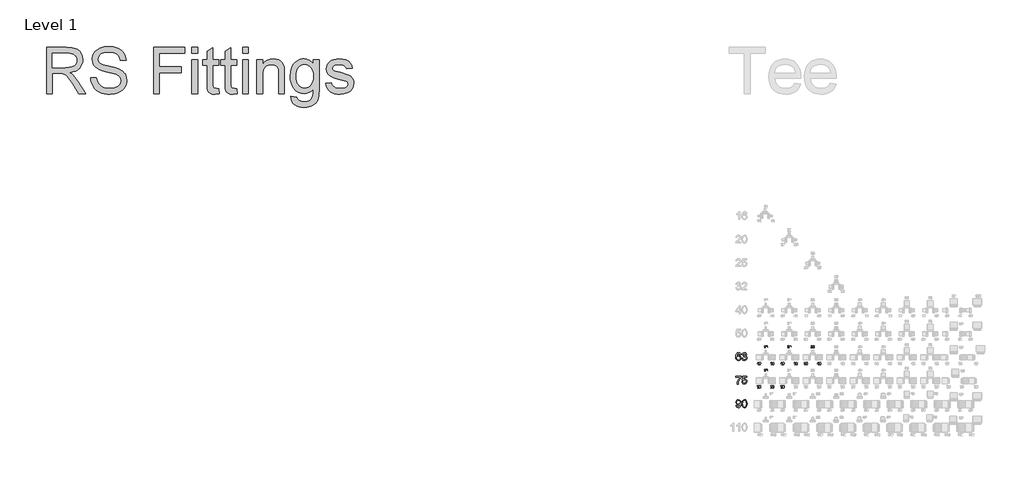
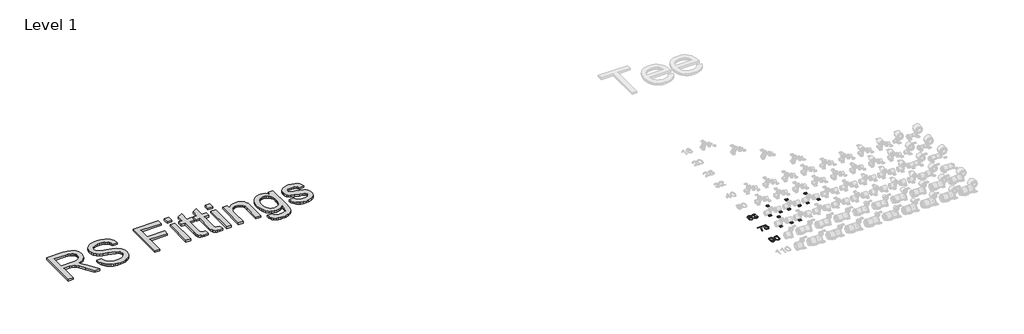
# One storey, part 19 of 58: 17 proxies.
"""IFC4 building model written with IfcOpenShell, lengths in millimetres."""

from ifc_helpers import new_model, si_unit, frame, origin, place, context, project, spatial, polyline, outline, extrude, element, save

model = new_model("IFC4")

# Units and contexts
model_context = context("Model", 3, world=origin())
ifc_project = project(units=[si_unit("LENGTHUNIT", "METRE", prefix="MILLI")], contexts=[model_context])

# Site, building, storey
site = spatial("IfcSite", under=ifc_project)
building = spatial("IfcBuilding", under=site)
storey = spatial("IfcBuildingStorey", under=building, Name="Level 1", Elevation=27.3876384)

# Proxies
placement = place(None, origin())
element("IfcBuildingElementProxy", 1, Name="100mm Arial", ObjectType="100mm Arial", at=placement, inside=storey, context=model_context, shape_type="SweptSolid", body=[
    extrude(outline(polyline([(12948.836301, 16879.9686507), (12936.2792622, 16878.3990209), (12931.5213218, 16888.871395), (12918.9397575, 16894.0953193), (12907.6089921, 16891.0541615), (12899.0373416, 16879.6375569), (12895.4688862, 16857.2580689), (12906.5421343, 16867.2767219), (12920.2641327, 16870.5508717), (12931.8646783, 16868.3129229), (12941.6012884, 16861.5990764), (12948.2047702, 16851.3413001), (12950.4059308, 16838.4715617), (12946.261127, 16821.1443197), (12934.8567852, 16808.8815865), (12918.4001973, 16804.6264181), (12904.153967, 16807.4468468), (12892.8078731, 16815.9081326), (12885.3858539, 16830.8441416), (12882.9118475, 16853.0887396), (12885.6586997, 16878.0985839), (12893.8992564, 16895.1989653), (12905.1503141, 16903.7890099), (12919.7245724, 16906.6523581), (12930.7426382, 16904.8803932), (12939.5656747, 16899.5644983), (12945.7460922, 16891.1216066), (12948.836301, 16879.9686507)]), holes=[polyline([(12895.4688862, 16838.6677654), (12898.375154, 16827.7907211), (12906.1006759, 16819.8935209), (12917.4191786, 16817.1834569), (12925.7057205, 16818.5875398), (12932.2202975, 16822.7997887), (12936.4417434, 16829.4216646), (12937.8488921, 16838.0546288), (12936.4601375, 16846.3411707), (12932.2938739, 16852.659544), (12925.6689323, 16856.6602607), (12916.9041438, 16857.9938329), (12901.7106174, 16852.659544), (12897.029319, 16846.4944549), (12895.4688862, 16838.6677654)])]), frame((0.0, 0.0, 27.3876384), z_axis=(0.0, 0.0, 1.0), x_axis=(1.0, 0.0, 0.0)), (0.0, 0.0, 1.0), 2.0),
    extrude(outline(polyline([(12961.3933398, 16832.8797554), (12973.9503785, 16834.4493852), (12980.8788228, 16821.2301588), (12993.8405317, 16817.1834569), (13002.4489704, 16818.5752771), (13009.0953718, 16822.7507378), (13014.7607545, 16836.5340498), (13009.1444227, 16849.5202843), (12994.8706013, 16854.6583695), (12986.0659589, 16853.2849434), (12987.4639105, 16865.8419821), (12989.4749987, 16865.6948293), (13003.7242947, 16869.3000729), (13008.4699724, 16873.8740723), (13010.051865, 16880.3855837), (13005.4656028, 16890.2080329), (12993.644328, 16894.0953193), (12981.6759004, 16890.1712447), (12975.5200084, 16878.3990209), (12962.9629696, 16879.9686507), (12966.6601837, 16891.2442339), (12973.23914, 16899.6626002), (12982.2399862, 16904.9049186), (12993.2028696, 16906.6523581), (13008.3473451, 16903.2065301), (13018.9423465, 16893.788751), (13022.6089038, 16881.1213477), (13019.1262875, 16869.5453275), (13008.8255917, 16861.2311944), (13022.5108019, 16852.6472812), (13027.3177933, 16836.3133206), (13024.9142976, 16824.0751129), (13017.7038105, 16813.8479935), (13006.8206348, 16806.931812), (12993.3990733, 16804.6264181), (12981.2589675, 16806.5945868), (12971.3752046, 16812.4990928), (12964.5019426, 16821.5305958), (12961.3933398, 16832.8797554)])), frame((0.0, 0.0, 27.3876384), z_axis=(0.0, 0.0, 1.0), x_axis=(1.0, 0.0, 0.0)), (0.0, 0.0, 1.0), 2.0),
])
element("IfcBuildingElementProxy", 2, Name="100mm Arial", ObjectType="100mm Arial", at=placement, inside=storey, context=model_context, shape_type="SweptSolid", body=[
    extrude(outline(polyline([(12884.4814773, 16592.5256895), (12884.4814773, 16605.0827283), (12950.4059308, 16605.0827283), (12950.4059308, 16594.9291852), (12931.7052628, 16567.914384), (12917.3946531, 16533.492892), (12912.7348145, 16506.196048), (12900.1777758, 16506.196048), (12905.1687082, 16534.5229616), (12918.8661811, 16566.5409579), (12937.8488921, 16592.5256895), (12884.4814773, 16592.5256895)])), frame((0.0, 0.0, 27.3876384), z_axis=(0.0, 0.0, 1.0), x_axis=(1.0, 0.0, 0.0)), (0.0, 0.0, 1.0), 2.0),
    extrude(outline(polyline([(12961.3933398, 16532.8797554), (12973.9503785, 16534.4493852), (12980.2779488, 16521.5122017), (12993.3990733, 16517.1834569), (13002.3999195, 16518.6887074), (13009.1444227, 16523.2044589), (13013.3566716, 16530.2095452), (13014.7607545, 16539.1828002), (13009.500042, 16554.0942837), (13002.8934945, 16558.196168), (12993.5952771, 16559.5634627), (12982.57108, 16557.3806962), (12975.5200084, 16551.7153135), (12962.9629696, 16553.2849434), (12973.9503785, 16605.0827283), (13022.6089038, 16605.0827283), (13022.6089038, 16592.5256895), (12984.1039216, 16592.5256895), (12978.7328445, 16564.8609635), (12987.7030338, 16570.305617), (12997.1024188, 16572.1205015), (13008.8347887, 16569.87029), (13018.5744645, 16563.1196554), (13025.1319611, 16552.8312222), (13027.3177933, 16539.9676151), (13025.3496246, 16527.4105764), (13019.4451186, 16516.6684221), (13008.1388786, 16507.6369191), (12993.3500224, 16504.6264181), (12981.0167785, 16506.5608643), (12971.1912636, 16512.3642028), (12964.4559574, 16521.3619832), (12961.3933398, 16532.8797554)])), frame((0.0, 0.0, 27.3876384), z_axis=(0.0, 0.0, 1.0), x_axis=(1.0, 0.0, 0.0)), (0.0, 0.0, 1.0), 2.0),
])
element("IfcBuildingElementProxy", 3, Name="100mm Arial", ObjectType="100mm Arial", at=placement, inside=storey, context=model_context, shape_type="SweptSolid", body=[
    extrude(outline(polyline([(12886.0511071, 16231.3101255), (12898.6081459, 16232.8797554), (12904.2490032, 16220.899065), (12914.9421065, 16217.1834569), (12925.1079123, 16219.5746899), (12931.9995683, 16225.9635738), (12936.107584, 16236.8774064), (12937.9224685, 16251.4455334), (12937.8488921, 16253.89808), (12927.8057136, 16244.3821991), (12914.0346642, 16240.7279046), (12902.5843371, 16242.959722), (12893.0531278, 16249.6551743), (12886.6243899, 16259.9987898), (12884.4814773, 16273.1750966), (12886.7286232, 16286.7867304), (12893.4700607, 16297.4553082), (12903.5960126, 16304.3530956), (12915.9967016, 16306.6523581), (12933.8880293, 16301.4039083), (12946.1998134, 16286.4433738), (12950.4059308, 16258.3371894), (12946.2120761, 16227.839772), (12940.9973488, 16217.8487102), (12933.7408765, 16210.561581), (12924.7553587, 16206.1102088), (12914.3534953, 16204.6264181), (12903.6174724, 16206.3769233), (12895.0519533, 16211.6284388), (12889.0616081, 16220.0498708), (12886.0511071, 16231.3101255)]), holes=[polyline([(12937.8488921, 16273.4694022), (12936.4938601, 16281.979739), (12932.428764, 16288.5280385), (12926.1195878, 16292.7034991), (12918.0323153, 16294.0953193), (12909.6446058, 16292.5962002), (12902.924628, 16288.0988428), (12898.5100441, 16281.2163838), (12897.0385161, 16272.5619599), (12898.4303363, 16264.8027155), (12902.6057969, 16258.6437577), (12909.1602278, 16254.624647), (12917.6889587, 16253.2849434), (12932.1712466, 16258.6437577), (12936.4294807, 16265.029576), (12937.8488921, 16273.4694022)])]), frame((0.0, 0.0, 27.3876384), z_axis=(0.0, 0.0, 1.0), x_axis=(1.0, 0.0, 0.0)), (0.0, 0.0, 1.0), 2.0),
    extrude(outline(polyline([(12961.3933398, 16255.6148627), (12965.0844224, 16284.5181247), (12976.0473059, 16301.1831791), (12994.3555665, 16306.6523581), (13009.0217954, 16303.4149966), (13019.150813, 16294.0830566), (13025.0369249, 16279.220624), (13027.3177933, 16255.6148627), (13023.6634988, 16226.8342279), (13012.7374036, 16210.1323853), (13004.5060439, 16206.0029099), (12994.3555665, 16204.6264181), (12981.3080184, 16207.0176511), (12971.39973, 16214.19135), (12963.8949373, 16231.1813668), (12961.3933398, 16255.6148627)]), holes=[polyline([(12973.9503785, 16255.6393881), (12975.4219065, 16235.8871907), (12979.8364905, 16224.4552577), (12986.4093154, 16219.0014071), (12994.3555665, 16217.1834569), (13002.3018176, 16219.0075385), (13008.8746426, 16224.4797831), (13013.2892265, 16235.9178475), (13014.7607545, 16255.6393881), (13013.3382775, 16274.9470615), (13009.0708463, 16286.4678993), (13002.5102841, 16292.1884643), (12994.2084137, 16294.0953193), (12986.3480018, 16292.4153249), (12980.0326942, 16287.3753416), (12975.4709574, 16275.1371339), (12973.9503785, 16255.6393881)])]), frame((0.0, 0.0, 27.3876384), z_axis=(0.0, 0.0, 1.0), x_axis=(1.0, 0.0, 0.0)), (0.0, 0.0, 1.0), 2.0),
])
element("IfcBuildingElementProxy", 4, Name="30mm Arial", ObjectType="30mm Arial", at=placement, inside=storey, context=model_context, shape_type="SweptSolid", body=[
    extrude(outline(polyline([(13177.8418771, 16774.7106348), (13174.0747655, 16774.2397458), (13172.6473834, 16777.381458), (13168.8729141, 16778.9486353), (13165.4736845, 16778.036288), (13162.9021893, 16774.6113066), (13161.8316527, 16767.8974602), (13165.1536271, 16770.9030561), (13169.2702266, 16771.885301), (13175.6713734, 16769.1997625), (13178.3127661, 16762.261508), (13177.0693249, 16757.0633355), (13173.6480224, 16753.3845155), (13168.711046, 16752.107965), (13161.0333488, 16755.4924793), (13158.0645411, 16766.6466614), (13161.3607637, 16779.2797291), (13169.1083586, 16782.715747), (13175.0606892, 16780.589389), (13177.8418771, 16774.7106348)]), holes=[polyline([(13161.8316527, 16762.3203692), (13162.703533, 16759.0572559), (13165.0211896, 16756.6880958), (13168.4167404, 16755.8750766), (13172.8570761, 16757.5599761), (13174.5456545, 16762.1364282), (13172.879149, 16766.5179027), (13168.26223, 16768.1181894), (13163.7041721, 16766.5179027), (13161.8316527, 16762.3203692)])]), frame((0.0, 0.0, 27.3876384), z_axis=(0.0, 0.0, 1.0), x_axis=(1.0, 0.0, 0.0)), (0.0, 0.0, 1.0), 2.0),
    extrude(outline(polyline([(13181.6089888, 16760.5839661), (13185.3761004, 16761.0548551), (13187.4546337, 16757.0890872), (13191.3431464, 16755.8750766), (13195.9195984, 16757.5452609), (13197.6192132, 16761.6802545), (13195.9343137, 16765.5761248), (13191.6521672, 16767.1175504), (13189.0107745, 16766.7055225), (13189.43016, 16770.4726342), (13194.3082752, 16771.5100614), (13196.2065463, 16774.8357146), (13194.8306677, 16777.7824494), (13191.2842852, 16778.9486353), (13187.693757, 16777.771413), (13185.8469893, 16774.2397458), (13182.0798777, 16774.7106348), (13185.1627288, 16780.6188196), (13191.1518477, 16782.715747), (13195.6951904, 16781.6819986), (13198.8736908, 16778.8566648), (13199.973658, 16775.0564438), (13198.9288731, 16771.5836378), (13195.8386643, 16769.0893979), (13199.9442274, 16766.5142239), (13201.3863248, 16761.6140357), (13198.50213, 16754.8744376), (13191.2107088, 16752.107965), (13184.6035482, 16754.4697674), (13181.6089888, 16760.5839661)])), frame((0.0, 0.0, 27.3876384), z_axis=(0.0, 0.0, 1.0), x_axis=(1.0, 0.0, 0.0)), (0.0, 0.0, 1.0), 2.0),
])
element("IfcBuildingElementProxy", 5, Name="30mm Arial", ObjectType="30mm Arial", at=placement, inside=storey, context=model_context, shape_type="SweptSolid", body=[
    extrude(outline(polyline([(13346.5918771, 16774.7106348), (13342.8247655, 16774.2397458), (13341.3973834, 16777.381458), (13337.6229141, 16778.9486353), (13334.2236845, 16778.036288), (13331.6521893, 16774.6113066), (13330.5816527, 16767.8974602), (13333.9036271, 16770.9030561), (13338.0202266, 16771.885301), (13344.4213734, 16769.1997625), (13347.0627661, 16762.261508), (13345.8193249, 16757.0633355), (13342.3980224, 16753.3845155), (13337.461046, 16752.107965), (13329.7833488, 16755.4924793), (13326.8145411, 16766.6466614), (13330.1107637, 16779.2797291), (13337.8583586, 16782.715747), (13343.8106892, 16780.589389), (13346.5918771, 16774.7106348)]), holes=[polyline([(13330.5816527, 16762.3203692), (13331.453533, 16759.0572559), (13333.7711896, 16756.6880958), (13337.1667404, 16755.8750766), (13341.6070761, 16757.5599761), (13343.2956545, 16762.1364282), (13341.629149, 16766.5179027), (13337.01223, 16768.1181894), (13332.4541721, 16766.5179027), (13330.5816527, 16762.3203692)])]), frame((0.0, 0.0, 27.3876384), z_axis=(0.0, 0.0, 1.0), x_axis=(1.0, 0.0, 0.0)), (0.0, 0.0, 1.0), 2.0),
    extrude(outline(polyline([(13350.3589888, 16760.5839661), (13354.1261004, 16761.0548551), (13356.2046337, 16757.0890872), (13360.0931464, 16755.8750766), (13364.6695984, 16757.5452609), (13366.3692132, 16761.6802545), (13364.6843137, 16765.5761248), (13360.4021672, 16767.1175504), (13357.7607745, 16766.7055225), (13358.18016, 16770.4726342), (13363.0582752, 16771.5100614), (13364.9565463, 16774.8357146), (13363.5806677, 16777.7824494), (13360.0342852, 16778.9486353), (13356.443757, 16777.771413), (13354.5969893, 16774.2397458), (13350.8298777, 16774.7106348), (13353.9127288, 16780.6188196), (13359.9018477, 16782.715747), (13364.4451904, 16781.6819986), (13367.6236908, 16778.8566648), (13368.723658, 16775.0564438), (13367.6788731, 16771.5836378), (13364.5886643, 16769.0893979), (13368.6942274, 16766.5142239), (13370.1363248, 16761.6140357), (13367.25213, 16754.8744376), (13359.9607088, 16752.107965), (13353.3535482, 16754.4697674), (13350.3589888, 16760.5839661)])), frame((0.0, 0.0, 27.3876384), z_axis=(0.0, 0.0, 1.0), x_axis=(1.0, 0.0, 0.0)), (0.0, 0.0, 1.0), 2.0),
])
element("IfcBuildingElementProxy", 6, Name="30mm Arial", ObjectType="30mm Arial", at=placement, inside=storey, context=model_context, shape_type="SweptSolid", body=[
    extrude(outline(polyline([(13259.5902834, 16966.3974945), (13255.8231718, 16966.3974945), (13255.8231718, 16989.8830811), (13252.2547165, 16987.3410165), (13248.2889486, 16985.4390666), (13248.2889486, 16989.0001643), (13253.8108573, 16992.5244738), (13257.1622623, 16996.5343875), (13259.5902834, 16996.5343875), (13259.5902834, 16966.3974945)])), frame((0.0, 0.0, 27.3876384), z_axis=(0.0, 0.0, 1.0), x_axis=(1.0, 0.0, 0.0)), (0.0, 0.0, 1.0), 2.0),
    extrude(outline(polyline([(13287.8436207, 16988.5292753), (13284.076509, 16988.0583864), (13282.6491269, 16991.2000986), (13278.8746576, 16992.7672759), (13275.475428, 16991.8549286), (13272.9039328, 16988.4299472), (13271.8333962, 16981.7161008), (13275.1553707, 16984.7216967), (13279.2719702, 16985.7039416), (13285.6731169, 16983.018403), (13288.3145096, 16976.0801486), (13287.0710685, 16970.881976), (13283.6497659, 16967.2031561), (13278.7127896, 16965.9266055), (13271.0350923, 16969.3111199), (13268.0662846, 16980.465302), (13271.3625073, 16993.0983697), (13279.1101021, 16996.5343875), (13285.0624328, 16994.4080296), (13287.8436207, 16988.5292753)]), holes=[polyline([(13271.8333962, 16976.1390097), (13272.7052766, 16972.8758964), (13275.0229331, 16970.5067364), (13278.418484, 16969.6937172), (13282.8588196, 16971.3786167), (13284.547398, 16975.9550687), (13282.8808926, 16980.3365433), (13278.2639735, 16981.93683), (13273.7059156, 16980.3365433), (13271.8333962, 16976.1390097)])]), frame((0.0, 0.0, 27.3876384), z_axis=(0.0, 0.0, 1.0), x_axis=(1.0, 0.0, 0.0)), (0.0, 0.0, 1.0), 2.0),
])
element("IfcBuildingElementProxy", 7, Name="30mm Arial", ObjectType="30mm Arial", at=placement, inside=storey, context=model_context, shape_type="SweptSolid", body=[
    extrude(outline(polyline([(13477.8418771, 16774.7106348), (13474.0747655, 16774.2397458), (13472.6473834, 16777.381458), (13468.8729141, 16778.9486353), (13465.4736845, 16778.036288), (13462.9021893, 16774.6113066), (13461.8316527, 16767.8974602), (13465.1536271, 16770.9030561), (13469.2702266, 16771.885301), (13475.6713734, 16769.1997625), (13478.3127661, 16762.261508), (13477.0693249, 16757.0633355), (13473.6480224, 16753.3845155), (13468.711046, 16752.107965), (13461.0333488, 16755.4924793), (13458.0645411, 16766.6466614), (13461.3607637, 16779.2797291), (13469.1083586, 16782.715747), (13475.0606892, 16780.589389), (13477.8418771, 16774.7106348)]), holes=[polyline([(13461.8316527, 16762.3203692), (13462.703533, 16759.0572559), (13465.0211896, 16756.6880958), (13468.4167404, 16755.8750766), (13472.8570761, 16757.5599761), (13474.5456545, 16762.1364282), (13472.879149, 16766.5179027), (13468.26223, 16768.1181894), (13463.7041721, 16766.5179027), (13461.8316527, 16762.3203692)])]), frame((0.0, 0.0, 27.3876384), z_axis=(0.0, 0.0, 1.0), x_axis=(1.0, 0.0, 0.0)), (0.0, 0.0, 1.0), 2.0),
    extrude(outline(polyline([(13481.6089888, 16760.5839661), (13485.3761004, 16761.0548551), (13487.4546337, 16757.0890872), (13491.3431464, 16755.8750766), (13495.9195984, 16757.5452609), (13497.6192132, 16761.6802545), (13495.9343137, 16765.5761248), (13491.6521672, 16767.1175504), (13489.0107745, 16766.7055225), (13489.43016, 16770.4726342), (13494.3082752, 16771.5100614), (13496.2065463, 16774.8357146), (13494.8306677, 16777.7824494), (13491.2842852, 16778.9486353), (13487.693757, 16777.771413), (13485.8469893, 16774.2397458), (13482.0798777, 16774.7106348), (13485.1627288, 16780.6188196), (13491.1518477, 16782.715747), (13495.6951904, 16781.6819986), (13498.8736908, 16778.8566648), (13499.973658, 16775.0564438), (13498.9288731, 16771.5836378), (13495.8386643, 16769.0893979), (13499.9442274, 16766.5142239), (13501.3863248, 16761.6140357), (13498.50213, 16754.8744376), (13491.2107088, 16752.107965), (13484.6035482, 16754.4697674), (13481.6089888, 16760.5839661)])), frame((0.0, 0.0, 27.3876384), z_axis=(0.0, 0.0, 1.0), x_axis=(1.0, 0.0, 0.0)), (0.0, 0.0, 1.0), 2.0),
])
element("IfcBuildingElementProxy", 8, Name="30mm Arial", ObjectType="30mm Arial", at=placement, inside=storey, context=model_context, shape_type="SweptSolid", body=[
    extrude(outline(polyline([(13646.5918771, 16774.7106348), (13642.8247655, 16774.2397458), (13641.3973834, 16777.381458), (13637.6229141, 16778.9486353), (13634.2236845, 16778.036288), (13631.6521893, 16774.6113066), (13630.5816527, 16767.8974602), (13633.9036271, 16770.9030561), (13638.0202266, 16771.885301), (13644.4213734, 16769.1997625), (13647.0627661, 16762.261508), (13645.8193249, 16757.0633355), (13642.3980224, 16753.3845155), (13637.461046, 16752.107965), (13629.7833488, 16755.4924793), (13626.8145411, 16766.6466614), (13630.1107637, 16779.2797291), (13637.8583586, 16782.715747), (13643.8106892, 16780.589389), (13646.5918771, 16774.7106348)]), holes=[polyline([(13630.5816527, 16762.3203692), (13631.453533, 16759.0572559), (13633.7711896, 16756.6880958), (13637.1667404, 16755.8750766), (13641.6070761, 16757.5599761), (13643.2956545, 16762.1364282), (13641.629149, 16766.5179027), (13637.01223, 16768.1181894), (13632.4541721, 16766.5179027), (13630.5816527, 16762.3203692)])]), frame((0.0, 0.0, 27.3876384), z_axis=(0.0, 0.0, 1.0), x_axis=(1.0, 0.0, 0.0)), (0.0, 0.0, 1.0), 2.0),
    extrude(outline(polyline([(13650.3589888, 16760.5839661), (13654.1261004, 16761.0548551), (13656.2046337, 16757.0890872), (13660.0931464, 16755.8750766), (13664.6695984, 16757.5452609), (13666.3692132, 16761.6802545), (13664.6843137, 16765.5761248), (13660.4021672, 16767.1175504), (13657.7607745, 16766.7055225), (13658.18016, 16770.4726342), (13663.0582752, 16771.5100614), (13664.9565463, 16774.8357146), (13663.5806677, 16777.7824494), (13660.0342852, 16778.9486353), (13656.443757, 16777.771413), (13654.5969893, 16774.2397458), (13650.8298777, 16774.7106348), (13653.9127288, 16780.6188196), (13659.9018477, 16782.715747), (13664.4451904, 16781.6819986), (13667.6236908, 16778.8566648), (13668.723658, 16775.0564438), (13667.6788731, 16771.5836378), (13664.5886643, 16769.0893979), (13668.6942274, 16766.5142239), (13670.1363248, 16761.6140357), (13667.25213, 16754.8744376), (13659.9607088, 16752.107965), (13653.3535482, 16754.4697674), (13650.3589888, 16760.5839661)])), frame((0.0, 0.0, 27.3876384), z_axis=(0.0, 0.0, 1.0), x_axis=(1.0, 0.0, 0.0)), (0.0, 0.0, 1.0), 2.0),
])
element("IfcBuildingElementProxy", 9, Name="30mm Arial", ObjectType="30mm Arial", at=placement, inside=storey, context=model_context, shape_type="SweptSolid", body=[
    extrude(outline(polyline([(13564.7700619, 16970.1646061), (13564.7700619, 16966.3974945), (13544.9927259, 16966.3974945), (13545.3973961, 16968.9947414), (13547.6856221, 16972.9936187), (13552.4018693, 16977.3603779), (13558.9060229, 16983.6364448), (13560.5320614, 16987.9038759), (13558.9979934, 16991.3582879), (13554.9917585, 16992.7672759), (13550.8162979, 16991.3913972), (13549.2307265, 16987.5874974), (13545.4636148, 16988.0583864), (13548.3514885, 16994.3638838), (13555.0726925, 16996.5343875), (13561.8159695, 16994.1210816), (13564.299173, 16988.1319628), (13563.6296278, 16984.5598286), (13561.4039417, 16980.8662934), (13556.0071128, 16975.704909), (13551.6734629, 16972.0812713), (13549.9738481, 16970.1646061), (13564.7700619, 16970.1646061)])), frame((0.0, 0.0, 27.3876384), z_axis=(0.0, 0.0, 1.0), x_axis=(1.0, 0.0, 0.0)), (0.0, 0.0, 1.0), 2.0),
    extrude(outline(polyline([(13568.5371736, 16981.2231389), (13569.6444984, 16989.8941175), (13572.9333634, 16994.8936338), (13578.4258416, 16996.5343875), (13582.8257103, 16995.5631791), (13585.8644155, 16992.7635971), (13587.6302491, 16988.3048673), (13588.3145096, 16981.2231389), (13587.2182213, 16972.5889485), (13583.9403927, 16967.5783957), (13578.4258416, 16965.9266055), (13571.5390906, 16968.7960851), (13568.5371736, 16981.2231389)]), holes=[polyline([(13572.3042852, 16981.2304965), (13574.0701188, 16971.8752574), (13578.4258416, 16969.6937172), (13582.7815644, 16971.882615), (13584.547398, 16981.2304965), (13582.8404255, 16990.4790499), (13578.3816958, 16992.7672759), (13574.1289799, 16990.7512826), (13572.3042852, 16981.2304965)])]), frame((0.0, 0.0, 27.3876384), z_axis=(0.0, 0.0, 1.0), x_axis=(1.0, 0.0, 0.0)), (0.0, 0.0, 1.0), 2.0),
])
element("IfcBuildingElementProxy", 10, Name="30mm Arial", ObjectType="30mm Arial", at=placement, inside=storey, context=model_context, shape_type="SweptSolid", body=[
    extrude(outline(polyline([(13775.8418771, 16774.7106348), (13772.0747655, 16774.2397458), (13770.6473834, 16777.381458), (13766.8729141, 16778.9486353), (13763.4736845, 16778.036288), (13760.9021893, 16774.6113066), (13759.8316527, 16767.8974602), (13763.1536271, 16770.9030561), (13767.2702266, 16771.885301), (13773.6713734, 16769.1997625), (13776.3127661, 16762.261508), (13775.0693249, 16757.0633355), (13771.6480224, 16753.3845155), (13766.711046, 16752.107965), (13759.0333488, 16755.4924793), (13756.0645411, 16766.6466614), (13759.3607637, 16779.2797291), (13767.1083586, 16782.715747), (13773.0606892, 16780.589389), (13775.8418771, 16774.7106348)]), holes=[polyline([(13759.8316527, 16762.3203692), (13760.703533, 16759.0572559), (13763.0211896, 16756.6880958), (13766.4167404, 16755.8750766), (13770.8570761, 16757.5599761), (13772.5456545, 16762.1364282), (13770.879149, 16766.5179027), (13766.26223, 16768.1181894), (13761.7041721, 16766.5179027), (13759.8316527, 16762.3203692)])]), frame((0.0, 0.0, 27.3876384), z_axis=(0.0, 0.0, 1.0), x_axis=(1.0, 0.0, 0.0)), (0.0, 0.0, 1.0), 2.0),
    extrude(outline(polyline([(13779.6089888, 16760.5839661), (13783.3761004, 16761.0548551), (13785.4546337, 16757.0890872), (13789.3431464, 16755.8750766), (13793.9195984, 16757.5452609), (13795.6192132, 16761.6802545), (13793.9343137, 16765.5761248), (13789.6521672, 16767.1175504), (13787.0107745, 16766.7055225), (13787.43016, 16770.4726342), (13792.3082752, 16771.5100614), (13794.2065463, 16774.8357146), (13792.8306677, 16777.7824494), (13789.2842852, 16778.9486353), (13785.693757, 16777.771413), (13783.8469893, 16774.2397458), (13780.0798777, 16774.7106348), (13783.1627288, 16780.6188196), (13789.1518477, 16782.715747), (13793.6951904, 16781.6819986), (13796.8736908, 16778.8566648), (13797.973658, 16775.0564438), (13796.9288731, 16771.5836378), (13793.8386643, 16769.0893979), (13797.9442274, 16766.5142239), (13799.3863248, 16761.6140357), (13796.50213, 16754.8744376), (13789.2107088, 16752.107965), (13782.6035482, 16754.4697674), (13779.6089888, 16760.5839661)])), frame((0.0, 0.0, 27.3876384), z_axis=(0.0, 0.0, 1.0), x_axis=(1.0, 0.0, 0.0)), (0.0, 0.0, 1.0), 2.0),
])
element("IfcBuildingElementProxy", 11, Name="30mm Arial", ObjectType="30mm Arial", at=placement, inside=storey, context=model_context, shape_type="SweptSolid", body=[
    extrude(outline(polyline([(13944.5918771, 16774.7106348), (13940.8247655, 16774.2397458), (13939.3973834, 16777.381458), (13935.6229141, 16778.9486353), (13932.2236845, 16778.036288), (13929.6521893, 16774.6113066), (13928.5816527, 16767.8974602), (13931.9036271, 16770.9030561), (13936.0202266, 16771.885301), (13942.4213734, 16769.1997625), (13945.0627661, 16762.261508), (13943.8193249, 16757.0633355), (13940.3980224, 16753.3845155), (13935.461046, 16752.107965), (13927.7833488, 16755.4924793), (13924.8145411, 16766.6466614), (13928.1107637, 16779.2797291), (13935.8583586, 16782.715747), (13941.8106892, 16780.589389), (13944.5918771, 16774.7106348)]), holes=[polyline([(13928.5816527, 16762.3203692), (13929.453533, 16759.0572559), (13931.7711896, 16756.6880958), (13935.1667404, 16755.8750766), (13939.6070761, 16757.5599761), (13941.2956545, 16762.1364282), (13939.629149, 16766.5179027), (13935.01223, 16768.1181894), (13930.4541721, 16766.5179027), (13928.5816527, 16762.3203692)])]), frame((0.0, 0.0, 27.3876384), z_axis=(0.0, 0.0, 1.0), x_axis=(1.0, 0.0, 0.0)), (0.0, 0.0, 1.0), 2.0),
    extrude(outline(polyline([(13948.3589888, 16760.5839661), (13952.1261004, 16761.0548551), (13954.2046337, 16757.0890872), (13958.0931464, 16755.8750766), (13962.6695984, 16757.5452609), (13964.3692132, 16761.6802545), (13962.6843137, 16765.5761248), (13958.4021672, 16767.1175504), (13955.7607745, 16766.7055225), (13956.18016, 16770.4726342), (13961.0582752, 16771.5100614), (13962.9565463, 16774.8357146), (13961.5806677, 16777.7824494), (13958.0342852, 16778.9486353), (13954.443757, 16777.771413), (13952.5969893, 16774.2397458), (13948.8298777, 16774.7106348), (13951.9127288, 16780.6188196), (13957.9018477, 16782.715747), (13962.4451904, 16781.6819986), (13965.6236908, 16778.8566648), (13966.723658, 16775.0564438), (13965.6788731, 16771.5836378), (13962.5886643, 16769.0893979), (13966.6942274, 16766.5142239), (13968.1363248, 16761.6140357), (13965.25213, 16754.8744376), (13957.9607088, 16752.107965), (13951.3535482, 16754.4697674), (13948.3589888, 16760.5839661)])), frame((0.0, 0.0, 27.3876384), z_axis=(0.0, 0.0, 1.0), x_axis=(1.0, 0.0, 0.0)), (0.0, 0.0, 1.0), 2.0),
])
element("IfcBuildingElementProxy", 12, Name="30mm Arial", ObjectType="30mm Arial", at=placement, inside=storey, context=model_context, shape_type="SweptSolid", body=[
    extrude(outline(polyline([(13862.7700619, 16970.1646061), (13862.7700619, 16966.3974945), (13842.9927259, 16966.3974945), (13843.3973961, 16968.9947414), (13845.6856221, 16972.9936187), (13850.4018693, 16977.3603779), (13856.9060229, 16983.6364448), (13858.5320614, 16987.9038759), (13856.9979934, 16991.3582879), (13852.9917585, 16992.7672759), (13848.8162979, 16991.3913972), (13847.2307265, 16987.5874974), (13843.4636148, 16988.0583864), (13846.3514885, 16994.3638838), (13853.0726925, 16996.5343875), (13859.8159695, 16994.1210816), (13862.299173, 16988.1319628), (13861.6296278, 16984.5598286), (13859.4039417, 16980.8662934), (13854.0071128, 16975.704909), (13849.6734629, 16972.0812713), (13847.9738481, 16970.1646061), (13862.7700619, 16970.1646061)])), frame((0.0, 0.0, 27.3876384), z_axis=(0.0, 0.0, 1.0), x_axis=(1.0, 0.0, 0.0)), (0.0, 0.0, 1.0), 2.0),
    extrude(outline(polyline([(13866.5371736, 16974.4026067), (13870.3042852, 16974.8734957), (13872.2025563, 16970.9923406), (13876.1388936, 16969.6937172), (13880.8624985, 16971.5000178), (13882.547398, 16976.2935202), (13880.9691842, 16980.7669652), (13876.1977548, 16982.4077189), (13872.8904956, 16981.752889), (13870.7751742, 16980.0532742), (13867.0080625, 16980.5241631), (13870.3042852, 16996.0634986), (13884.9018428, 16996.0634986), (13884.9018428, 16992.296387), (13873.3503481, 16992.296387), (13871.739025, 16983.9969691), (13877.2498973, 16986.1748306), (13883.691511, 16983.4745767), (13886.3145096, 16976.5289646), (13883.9527072, 16969.5392067), (13876.1241784, 16965.9266055), (13869.4765507, 16968.2479409), (13866.5371736, 16974.4026067)])), frame((0.0, 0.0, 27.3876384), z_axis=(0.0, 0.0, 1.0), x_axis=(1.0, 0.0, 0.0)), (0.0, 0.0, 1.0), 2.0),
])
element("IfcBuildingElementProxy", 13, Name="30mm Arial", ObjectType="30mm Arial", at=placement, inside=storey, context=model_context, shape_type="SweptSolid", body=[
    extrude(outline(polyline([(13158.53543, 16478.4777464), (13158.53543, 16482.244858), (13178.3127661, 16482.244858), (13178.3127661, 16479.1987951), (13172.7025657, 16471.0943547), (13168.4093828, 16460.7679071), (13167.0114312, 16452.5788539), (13163.2443196, 16452.5788539), (13164.7415993, 16461.076928), (13168.8508412, 16470.6823269), (13174.5456545, 16478.4777464), (13158.53543, 16478.4777464)])), frame((0.0, 0.0, 27.3876384), z_axis=(0.0, 0.0, 1.0), x_axis=(1.0, 0.0, 0.0)), (0.0, 0.0, 1.0), 2.0),
    extrude(outline(polyline([(13181.6089888, 16460.5839661), (13185.3761004, 16461.0548551), (13187.2743715, 16457.1737001), (13191.2107088, 16455.8750766), (13195.9343137, 16457.6813772), (13197.6192132, 16462.4748796), (13196.0409994, 16466.9483247), (13191.26957, 16468.5890784), (13187.9623108, 16467.9342484), (13185.8469893, 16466.2346336), (13182.0798777, 16466.7055225), (13185.3761004, 16482.244858), (13199.973658, 16482.244858), (13199.973658, 16478.4777464), (13188.4221633, 16478.4777464), (13186.8108402, 16470.1783286), (13192.3217125, 16472.35619), (13198.7633262, 16469.6559361), (13201.3863248, 16462.7103241), (13199.0245224, 16455.7205662), (13191.1959936, 16452.107965), (13184.5483659, 16454.4293004), (13181.6089888, 16460.5839661)])), frame((0.0, 0.0, 27.3876384), z_axis=(0.0, 0.0, 1.0), x_axis=(1.0, 0.0, 0.0)), (0.0, 0.0, 1.0), 2.0),
])
element("IfcBuildingElementProxy", 14, Name="30mm Arial", ObjectType="30mm Arial", at=placement, inside=storey, context=model_context, shape_type="SweptSolid", body=[
    extrude(outline(polyline([(13327.28543, 16478.4777464), (13327.28543, 16482.244858), (13347.0627661, 16482.244858), (13347.0627661, 16479.1987951), (13341.4525657, 16471.0943547), (13337.1593828, 16460.7679071), (13335.7614312, 16452.5788539), (13331.9943196, 16452.5788539), (13333.4915993, 16461.076928), (13337.6008412, 16470.6823269), (13343.2956545, 16478.4777464), (13327.28543, 16478.4777464)])), frame((0.0, 0.0, 27.3876384), z_axis=(0.0, 0.0, 1.0), x_axis=(1.0, 0.0, 0.0)), (0.0, 0.0, 1.0), 2.0),
    extrude(outline(polyline([(13350.3589888, 16460.5839661), (13354.1261004, 16461.0548551), (13356.0243715, 16457.1737001), (13359.9607088, 16455.8750766), (13364.6843137, 16457.6813772), (13366.3692132, 16462.4748796), (13364.7909994, 16466.9483247), (13360.01957, 16468.5890784), (13356.7123108, 16467.9342484), (13354.5969893, 16466.2346336), (13350.8298777, 16466.7055225), (13354.1261004, 16482.244858), (13368.723658, 16482.244858), (13368.723658, 16478.4777464), (13357.1721633, 16478.4777464), (13355.5608402, 16470.1783286), (13361.0717125, 16472.35619), (13367.5133262, 16469.6559361), (13370.1363248, 16462.7103241), (13367.7745224, 16455.7205662), (13359.9459936, 16452.107965), (13353.2983659, 16454.4293004), (13350.3589888, 16460.5839661)])), frame((0.0, 0.0, 27.3876384), z_axis=(0.0, 0.0, 1.0), x_axis=(1.0, 0.0, 0.0)), (0.0, 0.0, 1.0), 2.0),
])
element("IfcBuildingElementProxy", 15, Name="30mm Arial", ObjectType="30mm Arial", at=placement, inside=storey, context=model_context, shape_type="SweptSolid", body=[
    extrude(outline(polyline([(13259.5902834, 16666.3974945), (13255.8231718, 16666.3974945), (13255.8231718, 16689.8830811), (13252.2547165, 16687.3410165), (13248.2889486, 16685.4390666), (13248.2889486, 16689.0001643), (13253.8108573, 16692.5244738), (13257.1622623, 16696.5343875), (13259.5902834, 16696.5343875), (13259.5902834, 16666.3974945)])), frame((0.0, 0.0, 27.3876384), z_axis=(0.0, 0.0, 1.0), x_axis=(1.0, 0.0, 0.0)), (0.0, 0.0, 1.0), 2.0),
    extrude(outline(polyline([(13287.8436207, 16688.5292753), (13284.076509, 16688.0583864), (13282.6491269, 16691.2000986), (13278.8746576, 16692.7672759), (13275.475428, 16691.8549286), (13272.9039328, 16688.4299472), (13271.8333962, 16681.7161008), (13275.1553707, 16684.7216967), (13279.2719702, 16685.7039416), (13285.6731169, 16683.018403), (13288.3145096, 16676.0801486), (13287.0710685, 16670.881976), (13283.6497659, 16667.2031561), (13278.7127896, 16665.9266055), (13271.0350923, 16669.3111199), (13268.0662846, 16680.465302), (13271.3625073, 16693.0983697), (13279.1101021, 16696.5343875), (13285.0624328, 16694.4080296), (13287.8436207, 16688.5292753)]), holes=[polyline([(13271.8333962, 16676.1390097), (13272.7052766, 16672.8758964), (13275.0229331, 16670.5067364), (13278.418484, 16669.6937172), (13282.8588196, 16671.3786167), (13284.547398, 16675.9550687), (13282.8808926, 16680.3365433), (13278.2639735, 16681.93683), (13273.7059156, 16680.3365433), (13271.8333962, 16676.1390097)])]), frame((0.0, 0.0, 27.3876384), z_axis=(0.0, 0.0, 1.0), x_axis=(1.0, 0.0, 0.0)), (0.0, 0.0, 1.0), 2.0),
])
element("IfcBuildingElementProxy", 16, Name="30mm Arial", ObjectType="30mm Arial", at=placement, inside=storey, context=model_context, shape_type="SweptSolid", body=[
    extrude(outline(polyline([(13458.53543, 16478.4777464), (13458.53543, 16482.244858), (13478.3127661, 16482.244858), (13478.3127661, 16479.1987951), (13472.7025657, 16471.0943547), (13468.4093828, 16460.7679071), (13467.0114312, 16452.5788539), (13463.2443196, 16452.5788539), (13464.7415993, 16461.076928), (13468.8508412, 16470.6823269), (13474.5456545, 16478.4777464), (13458.53543, 16478.4777464)])), frame((0.0, 0.0, 27.3876384), z_axis=(0.0, 0.0, 1.0), x_axis=(1.0, 0.0, 0.0)), (0.0, 0.0, 1.0), 2.0),
    extrude(outline(polyline([(13481.6089888, 16460.5839661), (13485.3761004, 16461.0548551), (13487.2743715, 16457.1737001), (13491.2107088, 16455.8750766), (13495.9343137, 16457.6813772), (13497.6192132, 16462.4748796), (13496.0409994, 16466.9483247), (13491.26957, 16468.5890784), (13487.9623108, 16467.9342484), (13485.8469893, 16466.2346336), (13482.0798777, 16466.7055225), (13485.3761004, 16482.244858), (13499.973658, 16482.244858), (13499.973658, 16478.4777464), (13488.4221633, 16478.4777464), (13486.8108402, 16470.1783286), (13492.3217125, 16472.35619), (13498.7633262, 16469.6559361), (13501.3863248, 16462.7103241), (13499.0245224, 16455.7205662), (13491.1959936, 16452.107965), (13484.5483659, 16454.4293004), (13481.6089888, 16460.5839661)])), frame((0.0, 0.0, 27.3876384), z_axis=(0.0, 0.0, 1.0), x_axis=(1.0, 0.0, 0.0)), (0.0, 0.0, 1.0), 2.0),
])
element("IfcBuildingElementProxy", 17, Name="600mm Arial", ObjectType="600mm Arial", at=placement, inside=storey, context=model_context, shape_type="SweptSolid", body=[
    extrude(outline(polyline([(4085.4337219, 20213.7679008), (4085.4337219, 20804.5371316), (4340.0010296, 20804.5371316), (4408.4205007, 20800.5527566), (4458.1981449, 20788.5996316), (4477.4078805, 20779.0984297), (4494.5803565, 20766.5323239), (4509.7155728, 20750.9013143), (4522.8135296, 20732.2054008), (4533.3829406, 20711.4496917), (4540.9325199, 20689.639295), (4546.9721834, 20642.8544393), (4544.470681, 20612.5118912), (4536.9661738, 20584.6573239), (4524.4586618, 20559.2907373), (4506.9481449, 20536.4121316), (4484.2092627, 20516.7516748), (4456.0166546, 20501.0395354), (4422.3703204, 20489.2757133), (4383.2702603, 20481.4602085), (4407.6092026, 20465.5587662), (4425.2414142, 20449.87367), (4485.0971834, 20373.8640547), (4583.6067988, 20213.7679008), (4497.7894911, 20213.7679008), (4420.9144911, 20336.2198239), (4365.3856449, 20417.2775162), (4344.7426161, 20440.9133335), (4326.3712219, 20455.5707854), (4291.2510296, 20469.6332854), (4248.4144911, 20472.2294393), (4159.2798757, 20472.2294393), (4159.2798757, 20213.7679008), (4085.4337219, 20213.7679008)]), holes=[polyline([(4159.2798757, 20546.0755931), (4324.5683372, 20546.0755931), (4372.0382892, 20548.6897758), (4408.8712219, 20556.5323239), (4436.5995872, 20570.1260739), (4456.7558372, 20589.9938623), (4469.0334815, 20614.0263143), (4473.1260296, 20640.1140547), (4471.174407, 20658.999271), (4465.3195392, 20676.1356893), (4455.5614262, 20691.5233095), (4441.900068, 20705.1621316), (4424.0199598, 20716.3310018), (4401.6055969, 20724.3087662), (4374.6569791, 20729.0954248), (4343.1741065, 20730.6909777), (4159.2798757, 20730.6909777), (4159.2798757, 20546.0755931)])]), frame((0.0, 0.0, 27.3876384), z_axis=(0.0, 0.0, 1.0), x_axis=(1.0, 0.0, 0.0)), (0.0, 0.0, 1.0), 30.0),
    extrude(outline(polyline([(4648.5106449, 20416.8448239), (4722.3567988, 20416.8448239), (4730.8303565, 20375.8652566), (4746.1548757, 20342.9265547), (4770.0611257, 20316.7847277), (4804.2798757, 20296.1957854), (4846.1067988, 20282.8364104), (4892.837568, 20278.3832854), (4933.9793949, 20281.7546797), (4970.0010296, 20291.8688623), (4999.1897315, 20307.8784777), (5019.8327603, 20328.93617), (5032.1104046, 20353.1128527), (5036.2029526, 20378.4794393), (5033.1380488, 20403.1969873), (5023.9433372, 20424.56117), (5005.2654526, 20442.7883335), (4973.7510296, 20458.0948239), (4866.2269911, 20486.2919393), (4795.6440584, 20504.951795), (4750.4817988, 20522.7102085), (4713.7209815, 20547.5539585), (4687.6692988, 20577.6621316), (4672.1464622, 20612.3856893), (4666.9721834, 20651.0755931), (4668.5722435, 20673.0662782), (4673.3724238, 20694.326795), (4681.3727243, 20714.8571436), (4692.5731449, 20734.6573239), (4706.8474839, 20752.920545), (4724.0695392, 20768.8400162), (4744.2393108, 20782.4157373), (4767.3567988, 20793.6477085), (4819.3159334, 20808.7378527), (4876.8279526, 20813.7679008), (4939.1356449, 20808.5034777), (4993.6548757, 20792.7102085), (5017.5070392, 20780.9463864), (5038.4385296, 20766.7126123), (5056.4493469, 20750.0088864), (5071.5394911, 20730.8352085), (5083.5917747, 20709.7504729), (5092.4890103, 20687.3135739), (5098.2311978, 20663.5245114), (5100.8183372, 20638.3832854), (5026.9721834, 20638.3832854), (5022.0322796, 20661.9469873), (5013.4144911, 20682.4457854), (5001.118818, 20699.8796797), (4985.1452603, 20714.24867), (4965.1963421, 20725.4806412), (4940.9745872, 20733.5034777), (4912.4799959, 20738.3171797), (4879.712568, 20739.921747), (4845.8994671, 20738.3352085), (4817.0082411, 20733.5755931), (4793.0388901, 20725.6429008), (4773.9914142, 20714.5371316), (4759.478193, 20701.186771), (4749.1116065, 20686.5203047), (4742.8916546, 20670.5377325), (4740.8183372, 20653.2390547), (4746.6957411, 20624.8616508), (4764.3279526, 20602.0371316), (4780.5178565, 20591.8868912), (4806.0106449, 20581.6284777), (4884.9048757, 20560.7871316), (4966.3231449, 20540.9914585), (5015.5779526, 20523.7198239), (5057.6753084, 20496.9289585), (5073.9508493, 20481.1807614), (5087.0442988, 20463.8640547), (5097.1089022, 20445.0689825), (5104.2979046, 20424.8856893), (5110.0491065, 20380.3544393), (5108.3949598, 20357.2549801), (5103.4325199, 20334.8316027), (5095.1617868, 20313.0843071), (5083.5827603, 20292.0130931), (5068.8982651, 20272.4337662), (5051.3111257, 20255.1621316), (5030.8213421, 20240.1981893), (5007.4289142, 20227.5419393), (4981.814431, 20217.4773359), (4954.6584815, 20210.2883335), (4895.7221834, 20204.5371316), (4857.9472435, 20206.0876123), (4823.3724238, 20210.7390547), (4791.9977243, 20218.4914585), (4763.8231449, 20229.3448239), (4738.6774118, 20243.3171797), (4716.3892507, 20260.4265547), (4696.9586618, 20280.6729489), (4680.3856449, 20304.0563623), (4667.0352844, 20329.8195835), (4657.2726642, 20357.2054008), (4651.0977844, 20386.2138143), (4648.5106449, 20416.8448239)])), frame((0.0, 0.0, 27.3876384), z_axis=(0.0, 0.0, 1.0), x_axis=(1.0, 0.0, 0.0)), (0.0, 0.0, 1.0), 30.0),
    extrude(outline(polyline([(5451.587568, 20213.7679008), (5451.587568, 20804.5371316), (5848.5106449, 20804.5371316), (5848.5106449, 20730.6909777), (5525.4337219, 20730.6909777), (5525.4337219, 20555.3063623), (5802.3567988, 20555.3063623), (5802.3567988, 20481.4602085), (5525.4337219, 20481.4602085), (5525.4337219, 20213.7679008), (5451.587568, 20213.7679008)])), frame((0.0, 0.0, 27.3876384), z_axis=(0.0, 0.0, 1.0), x_axis=(1.0, 0.0, 0.0)), (0.0, 0.0, 1.0), 30.0),
    extrude(outline(polyline([(5940.8183372, 20213.7679008), (5940.8183372, 20647.6140547), (6014.6644911, 20647.6140547), (6014.6644911, 20213.7679008), (5940.8183372, 20213.7679008)])), frame((0.0, 0.0, 27.3876384), z_axis=(0.0, 0.0, 1.0), x_axis=(1.0, 0.0, 0.0)), (0.0, 0.0, 1.0), 30.0),
    extrude(outline(polyline([(5940.8183372, 20730.6909777), (5940.8183372, 20804.5371316), (6014.6644911, 20804.5371316), (6014.6644911, 20730.6909777), (5940.8183372, 20730.6909777)])), frame((0.0, 0.0, 27.3876384), z_axis=(0.0, 0.0, 1.0), x_axis=(1.0, 0.0, 0.0)), (0.0, 0.0, 1.0), 30.0),
    extrude(outline(polyline([(6282.3567988, 20275.3544393), (6291.587568, 20211.6044393), (6236.3471834, 20204.5371316), (6200.9024719, 20207.6020354), (6174.4721834, 20216.796747), (6155.7942988, 20230.96742), (6143.6067988, 20248.9602085), (6136.900068, 20279.8616508), (6134.6644911, 20332.7582854), (6134.6644911, 20573.7679008), (6079.2798757, 20573.7679008), (6079.2798757, 20647.6140547), (6134.6644911, 20647.6140547), (6134.6644911, 20753.046747), (6208.5106449, 20796.4602085), (6208.5106449, 20647.6140547), (6282.3567988, 20647.6140547), (6282.3567988, 20573.7679008), (6208.5106449, 20573.7679008), (6208.5106449, 20334.921747), (6212.4048757, 20296.8448239), (6225.025068, 20283.359247), (6235.6801161, 20279.6272758), (6250.1933372, 20278.3832854), (6282.3567988, 20275.3544393)])), frame((0.0, 0.0, 27.3876384), z_axis=(0.0, 0.0, 1.0), x_axis=(1.0, 0.0, 0.0)), (0.0, 0.0, 1.0), 30.0),
    extrude(outline(polyline([(6513.1260296, 20275.3544393), (6522.3567988, 20211.6044393), (6467.1164142, 20204.5371316), (6431.6717026, 20207.6020354), (6405.2414142, 20216.796747), (6386.5635296, 20230.96742), (6374.3760296, 20248.9602085), (6367.6692988, 20279.8616508), (6365.4337219, 20332.7582854), (6365.4337219, 20573.7679008), (6310.0491065, 20573.7679008), (6310.0491065, 20647.6140547), (6365.4337219, 20647.6140547), (6365.4337219, 20753.046747), (6439.2798757, 20796.4602085), (6439.2798757, 20647.6140547), (6513.1260296, 20647.6140547), (6513.1260296, 20573.7679008), (6439.2798757, 20573.7679008), (6439.2798757, 20334.921747), (6443.1741065, 20296.8448239), (6455.7942988, 20283.359247), (6466.4493469, 20279.6272758), (6480.962568, 20278.3832854), (6513.1260296, 20275.3544393)])), frame((0.0, 0.0, 27.3876384), z_axis=(0.0, 0.0, 1.0), x_axis=(1.0, 0.0, 0.0)), (0.0, 0.0, 1.0), 30.0),
    extrude(outline(polyline([(6586.9721834, 20730.6909777), (6586.9721834, 20804.5371316), (6660.8183372, 20804.5371316), (6660.8183372, 20730.6909777), (6586.9721834, 20730.6909777)])), frame((0.0, 0.0, 27.3876384), z_axis=(0.0, 0.0, 1.0), x_axis=(1.0, 0.0, 0.0)), (0.0, 0.0, 1.0), 30.0),
    extrude(outline(polyline([(6586.9721834, 20213.7679008), (6586.9721834, 20647.6140547), (6660.8183372, 20647.6140547), (6660.8183372, 20213.7679008), (6586.9721834, 20213.7679008)])), frame((0.0, 0.0, 27.3876384), z_axis=(0.0, 0.0, 1.0), x_axis=(1.0, 0.0, 0.0)), (0.0, 0.0, 1.0), 30.0),
    extrude(outline(polyline([(6771.587568, 20213.7679008), (6771.587568, 20647.6140547), (6845.4337219, 20647.6140547), (6845.4337219, 20587.0371316), (6871.0887699, 20617.577997), (6901.900068, 20639.3929008), (6937.8676161, 20652.4818431), (6978.9914142, 20656.8448239), (7015.3916546, 20653.3291989), (7048.7269911, 20642.7823239), (7076.5274719, 20626.5203047), (7096.3231449, 20605.859247), (7109.7546353, 20580.8532373), (7118.462568, 20551.5563623), (7122.3567988, 20480.1621316), (7122.3567988, 20213.7679008), (7048.5106449, 20213.7679008), (7048.5106449, 20470.2102085), (7046.3832411, 20508.3953047), (7040.0010296, 20535.546747), (7028.228193, 20554.999872), (7009.9289142, 20570.0900162), (6986.4733853, 20579.7715066), (6959.2317988, 20582.99867), (6936.8084214, 20581.186771), (6915.9805969, 20575.7510739), (6896.7483252, 20566.6915787), (6879.1116065, 20554.0082854), (6864.377532, 20536.2588864), (6853.853193, 20512.0010739), (6847.5385897, 20481.2348479), (6845.4337219, 20443.9602085), (6845.4337219, 20213.7679008), (6771.587568, 20213.7679008)])), frame((0.0, 0.0, 27.3876384), z_axis=(0.0, 0.0, 1.0), x_axis=(1.0, 0.0, 0.0)), (0.0, 0.0, 1.0), 30.0),
    extrude(outline(polyline([(7205.4337219, 20176.8448239), (7279.2798757, 20167.6140547), (7287.4289142, 20144.5371316), (7303.2221834, 20128.671747), (7334.2678565, 20116.3400162), (7374.9048757, 20112.2294393), (7418.2462219, 20116.8808816), (7435.7522315, 20122.6951845), (7450.4817988, 20130.8352085), (7472.837568, 20153.1909777), (7486.5394911, 20183.046747), (7490.5418949, 20214.8135739), (7491.587568, 20269.1525162), (7467.0142507, 20244.921747), (7439.5923757, 20227.6140547), (7409.321943, 20217.2294393), (7376.2029526, 20213.7679008), (7335.7146714, 20217.7973479), (7300.0671353, 20229.8856893), (7269.2603445, 20250.0329248), (7243.2942988, 20278.2390547), (7222.6918348, 20312.0791989), (7207.9757892, 20349.1284777), (7199.1461618, 20389.3868912), (7196.2029526, 20432.8544393), (7201.4854046, 20492.4758335), (7217.3327603, 20547.3015547), (7229.0785536, 20572.0236099), (7243.1861257, 20593.7618912), (7259.6554767, 20612.5163984), (7278.4866065, 20628.2871316), (7299.377532, 20640.781122), (7322.0262699, 20649.7054008), (7346.4328204, 20655.0599681), (7372.5971834, 20656.8448239), (7407.1314382, 20652.8063623), (7438.4745872, 20640.6909777), (7466.6266305, 20620.49867), (7491.587568, 20592.2294393), (7491.587568, 20647.6140547), (7565.4337219, 20647.6140547), (7565.4337219, 20273.046747), (7560.3856449, 20186.562372), (7554.0755488, 20154.3944032), (7545.2414142, 20129.609247), (7533.6714022, 20109.6197638), (7519.1536738, 20091.8388143), (7501.6882291, 20076.2663984), (7481.275068, 20062.9025162), (7458.1215223, 20052.1753527), (7432.4349238, 20044.5130931), (7404.2152723, 20039.9157373), (7373.462568, 20038.3832854), (7337.283181, 20040.5422397), (7304.7546353, 20047.0191027), (7275.876931, 20057.8138744), (7250.650068, 20072.9265547), (7230.2729647, 20092.3751724), (7215.9445392, 20116.1777566), (7207.6647916, 20144.3343071), (7205.4337219, 20176.8448239)]), holes=[polyline([(7270.0491065, 20437.9025162), (7272.0187579, 20401.3895955), (7277.9277122, 20370.1681412), (7287.7759695, 20344.2381532), (7301.5635296, 20323.5996316), (7318.3258493, 20307.8559417), (7337.0983853, 20296.6104489), (7357.8811377, 20289.8631532), (7380.6741065, 20287.6140547), (7403.2417147, 20289.8496316), (7423.9253084, 20296.5563623), (7442.7248877, 20307.734247), (7459.6404526, 20323.3832854), (7473.6173156, 20343.8189825), (7483.6007892, 20369.3568431), (7489.5908733, 20399.9968672), (7491.587568, 20435.7390547), (7489.5322796, 20469.9893551), (7483.3664142, 20499.7594873), (7473.0899719, 20525.0494513), (7458.7029526, 20545.859247), (7441.4223036, 20562.1077446), (7422.4649719, 20573.7138143), (7401.8309574, 20580.6774561), (7379.5202603, 20582.99867), (7357.5836618, 20580.7135138), (7337.3507892, 20573.858045), (7318.8216425, 20562.4322638), (7301.9962219, 20546.43617), (7288.0193589, 20525.9418792), (7278.0358853, 20501.0215066), (7272.0458012, 20471.6750522), (7270.0491065, 20437.9025162)])]), frame((0.0, 0.0, 27.3876384), z_axis=(0.0, 0.0, 1.0), x_axis=(1.0, 0.0, 0.0)), (0.0, 0.0, 1.0), 30.0),
    extrude(outline(polyline([(7648.5106449, 20342.99867), (7722.3567988, 20352.2294393), (7726.8189382, 20335.390497), (7734.0034334, 20320.6429008), (7743.9102844, 20307.9866508), (7756.5394911, 20297.421747), (7771.9271113, 20289.09242), (7790.1092026, 20283.1429008), (7834.8567988, 20278.3832854), (7879.0635296, 20282.7462662), (7896.2450199, 20288.1999922), (7910.1452603, 20295.8352085), (7928.5346834, 20314.8015547), (7934.6644911, 20336.796747), (7933.1230247, 20346.7666989), (7928.4986257, 20355.6188623), (7910.0010296, 20369.9698239), (7882.3447796, 20379.3448239), (7833.9914142, 20391.0275162), (7766.5995872, 20410.5166989), (7722.7894911, 20427.1573239), (7694.6464622, 20445.312372), (7674.2558372, 20469.3448239), (7661.8700199, 20497.7222277), (7657.7414142, 20528.9121316), (7661.0587219, 20557.5239104), (7671.0106449, 20583.93617), (7686.6957411, 20607.1032373), (7707.212568, 20625.9794393), (7727.603193, 20637.8604489), (7754.1596834, 20647.8304008), (7784.8628084, 20654.5912181), (7817.6933372, 20656.8448239), (7865.7582411, 20653.2210258), (7907.5491065, 20642.3496316), (7941.1548757, 20625.2943431), (7964.6644911, 20603.1188623), (7980.2414142, 20574.1825643), (7990.0491065, 20536.8448239), (7916.2029526, 20527.6140547), (7906.8820392, 20550.8532373), (7888.4385296, 20568.359247), (7860.6921353, 20579.3388143), (7823.462568, 20582.99867), (7781.0587219, 20579.5010739), (7752.7894911, 20569.0082854), (7736.8880488, 20553.8640547), (7731.587568, 20536.4121316), (7733.7870872, 20525.0539585), (7740.3856449, 20514.921747), (7751.6717026, 20505.8712662), (7767.9337219, 20498.62367), (7831.5394911, 20482.9025162), (7939.9289142, 20448.1429008), (7968.5587219, 20431.5203047), (7990.2654526, 20408.7679008), (8003.9493469, 20379.8135739), (8008.5106449, 20344.5852085), (8003.1560776, 20308.1669393), (7987.0923757, 20273.9121316), (7960.9325199, 20244.5070835), (7925.2894911, 20222.6380931), (7882.2366065, 20209.062372), (7833.8471834, 20204.5371316), (7794.1025921, 20206.718622), (7759.3880488, 20213.2630931), (7729.7035536, 20224.170545), (7705.0491065, 20239.4409777), (7684.9108853, 20259.0022758), (7668.775068, 20282.7823239), (7656.6416546, 20310.781122), (7648.5106449, 20342.99867)])), frame((0.0, 0.0, 27.3876384), z_axis=(0.0, 0.0, 1.0), x_axis=(1.0, 0.0, 0.0)), (0.0, 0.0, 1.0), 30.0),
])

save(model, "model.ifc")
